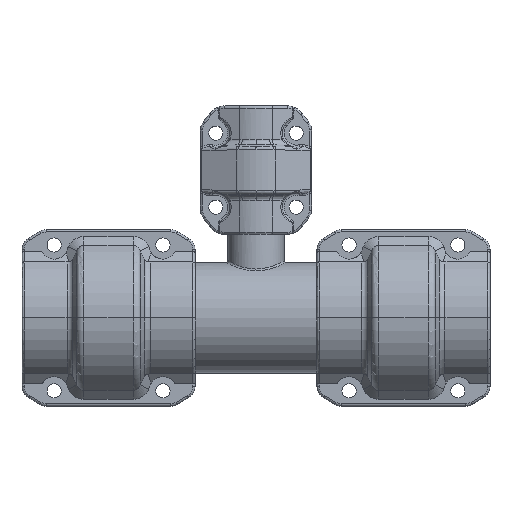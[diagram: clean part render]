
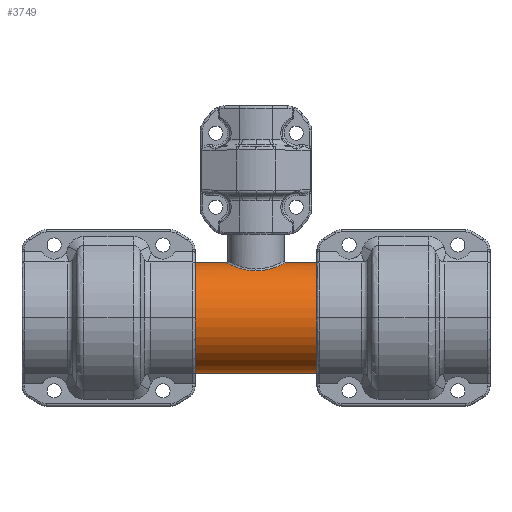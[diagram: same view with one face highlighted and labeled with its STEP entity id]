
A CAD part, top view. The second image highlights one B-rep face of the part: STEP entity #3749.
In plain terms, the highlighted cylindrical face has radius 25.4 mm (diameter 50.8 mm), a partial arc.
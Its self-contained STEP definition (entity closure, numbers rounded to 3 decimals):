
#1455=CYLINDRICAL_SURFACE('',#30445,25.4);
#2231=B_SPLINE_CURVE_WITH_KNOTS('',3,(#48523,#48524,#48525,#48526,#48527,
#48528,#48529,#48530,#48531,#48532,#48533,#48534,#48535,#48536,#48537,#48538,
#48539,#48540,#48541,#48542,#48543,#48544,#48545,#48546,#48547,#48548),.UNSPECIFIED.,
 .F.,.F.,(4,2,2,2,2,2,2,2,2,2,2,2,4),(0.,0.063,0.094,
0.125,0.25,0.375,0.5,0.563,0.625,0.688,0.75,0.875,1.),.UNSPECIFIED.);
#3749=ADVANCED_FACE('',(#5861),#1455,.T.);
#5861=FACE_OUTER_BOUND('',#7703,.T.);
#7703=EDGE_LOOP('',(#12604,#12605,#12606,#12607,#12608,#12609));
#9610=CIRCLE('',#30443,25.4);
#9611=CIRCLE('',#30444,25.4);
#12604=ORIENTED_EDGE('',*,*,#23493,.T.);
#12605=ORIENTED_EDGE('',*,*,#23494,.T.);
#12606=ORIENTED_EDGE('',*,*,#23495,.F.);
#12607=ORIENTED_EDGE('',*,*,#23496,.T.);
#12608=ORIENTED_EDGE('',*,*,#23497,.T.);
#12609=ORIENTED_EDGE('',*,*,#23492,.T.);
#20467=VERTEX_POINT('',#48520);
#20468=VERTEX_POINT('',#48522);
#20469=VERTEX_POINT('',#48654);
#20470=VERTEX_POINT('',#48656);
#20471=VERTEX_POINT('',#48658);
#20472=VERTEX_POINT('',#48660);
#23492=EDGE_CURVE('',#20467,#20468,#2231,.T.);
#23493=EDGE_CURVE('',#20468,#20469,#27353,.T.);
#23494=EDGE_CURVE('',#20469,#20470,#9610,.T.);
#23495=EDGE_CURVE('',#20471,#20470,#27354,.T.);
#23496=EDGE_CURVE('',#20471,#20472,#9611,.T.);
#23497=EDGE_CURVE('',#20472,#20467,#27355,.T.);
#27353=LINE('',#48653,#28705);
#27354=LINE('',#48657,#28706);
#27355=LINE('',#48661,#28707);
#28705=VECTOR('',#34310,1.);
#28706=VECTOR('',#34313,1.);
#28707=VECTOR('',#34316,1.);
#30443=AXIS2_PLACEMENT_3D('',#48655,#34311,#34312);
#30444=AXIS2_PLACEMENT_3D('',#48659,#34314,#34315);
#30445=AXIS2_PLACEMENT_3D('',#48662,#34317,#34318);
#34310=DIRECTION('',(-1.,0.,0.));
#34311=DIRECTION('',(1.,0.,0.));
#34312=DIRECTION('',(0.,1.,0.));
#34313=DIRECTION('',(-1.,0.,0.));
#34314=DIRECTION('',(-1.,0.,0.));
#34315=DIRECTION('',(0.,-1.,0.));
#34316=DIRECTION('',(-1.,0.,0.));
#34317=DIRECTION('',(1.,0.,0.));
#34318=DIRECTION('',(0.,-1.,0.));
#48520=CARTESIAN_POINT('',(78.9,54.093,-28.693));
#48522=CARTESIAN_POINT('',(51.1,54.093,-28.693));
#48523=CARTESIAN_POINT('',(78.9,54.093,-28.693));
#48524=CARTESIAN_POINT('',(78.9,54.093,-27.856));
#48525=CARTESIAN_POINT('',(78.82,54.052,-27.028));
#48526=CARTESIAN_POINT('',(78.581,53.932,-25.807));
#48527=CARTESIAN_POINT('',(78.481,53.882,-25.403));
#48528=CARTESIAN_POINT('',(78.242,53.765,-24.604));
#48529=CARTESIAN_POINT('',(78.115,53.703,-24.24));
#48530=CARTESIAN_POINT('',(77.251,53.288,-22.117));
#48531=CARTESIAN_POINT('',(76.268,52.826,-20.644));
#48532=CARTESIAN_POINT('',(73.553,51.771,-17.988));
#48533=CARTESIAN_POINT('',(71.844,51.214,-16.924));
#48534=CARTESIAN_POINT('',(68.482,50.489,-15.629));
#48535=CARTESIAN_POINT('',(66.759,50.287,-15.319));
#48536=CARTESIAN_POINT('',(64.106,50.288,-15.32));
#48537=CARTESIAN_POINT('',(63.232,50.338,-15.4));
#48538=CARTESIAN_POINT('',(61.506,50.531,-15.72));
#48539=CARTESIAN_POINT('',(60.7,50.664,-15.943));
#48540=CARTESIAN_POINT('',(58.926,51.049,-16.629));
#48541=CARTESIAN_POINT('',(58.088,51.275,-17.05));
#48542=CARTESIAN_POINT('',(56.508,51.768,-18.062));
#48543=CARTESIAN_POINT('',(55.728,52.05,-18.689));
#48544=CARTESIAN_POINT('',(53.762,52.815,-20.619));
#48545=CARTESIAN_POINT('',(52.687,53.318,-22.264));
#48546=CARTESIAN_POINT('',(51.418,53.928,-25.391));
#48547=CARTESIAN_POINT('',(51.1,54.093,-27.023));
#48548=CARTESIAN_POINT('',(51.1,54.093,-28.693));
#48653=CARTESIAN_POINT('',(51.1,54.093,-28.693));
#48654=CARTESIAN_POINT('',(32.071,54.093,-28.693));
#48655=CARTESIAN_POINT('',(32.071,28.693,-28.693));
#48656=CARTESIAN_POINT('',(32.071,3.293,-28.693));
#48657=CARTESIAN_POINT('',(97.929,3.293,-28.693));
#48658=CARTESIAN_POINT('',(97.929,3.293,-28.693));
#48659=CARTESIAN_POINT('',(97.929,28.693,-28.693));
#48660=CARTESIAN_POINT('',(97.929,54.093,-28.693));
#48661=CARTESIAN_POINT('',(97.929,54.093,-28.693));
#48662=CARTESIAN_POINT('',(-6.5,28.693,-28.693));
